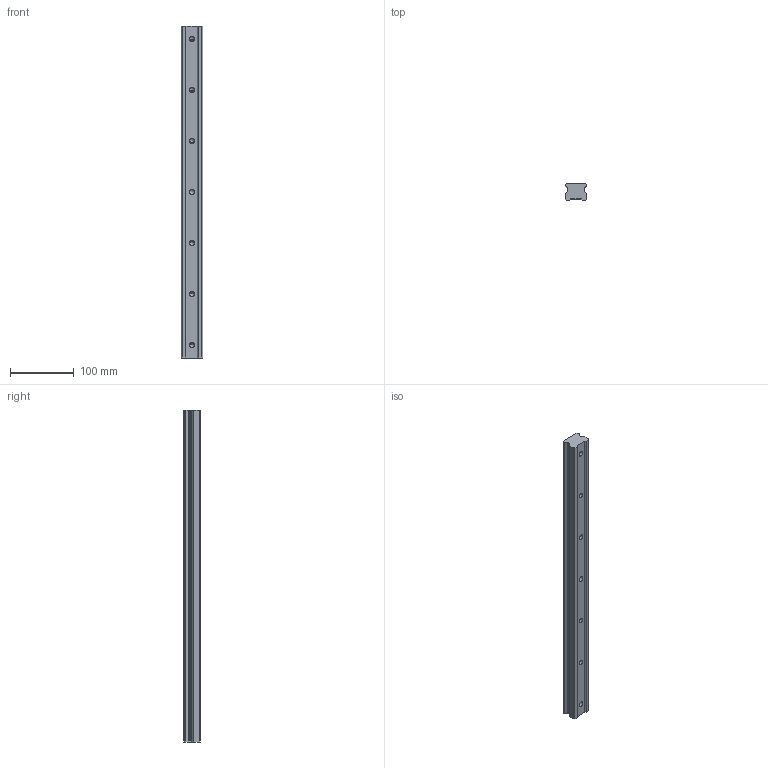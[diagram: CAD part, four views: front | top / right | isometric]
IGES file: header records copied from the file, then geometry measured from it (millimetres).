
Start section: SolidWorks IGES file using analytic representation for surfaces
Global section: file name: C:\Users\IanO\Desktop\Temp File\GENERAL\L1016_v2\L1016.RF35_v2\L1016.RF35_v2_20190612_IGES\L1016.RF35-0520.igs; native system: SolidWorks 2017; preprocessor: SolidWorks 2017; author: IanO; date: 190613.172527; units: millimetre
Bounding box: 34 x 26 x 520 mm (x, y, z)
Surface area: 69216.7 mm2 (no closed solid volume)
Topology: 0 solids, 0 shells, 75 faces, 1008 edges, 994 vertices
Faces by surface type: revolution 46, bspline 29
